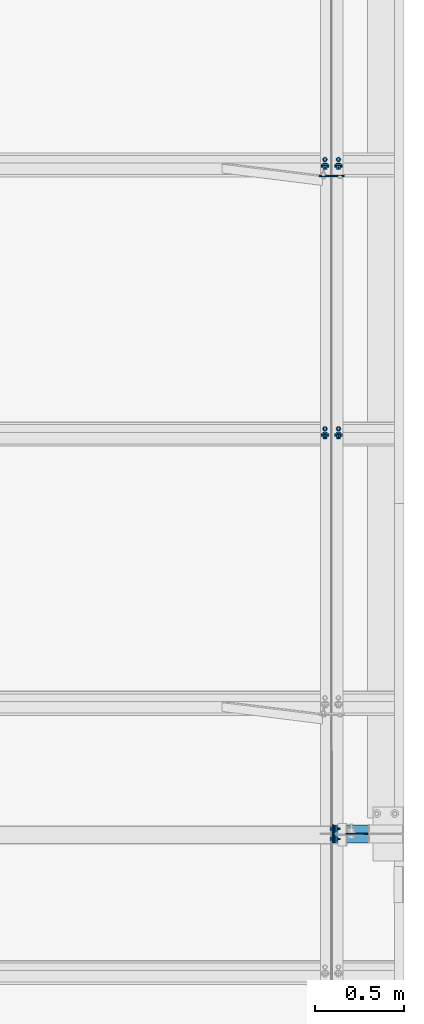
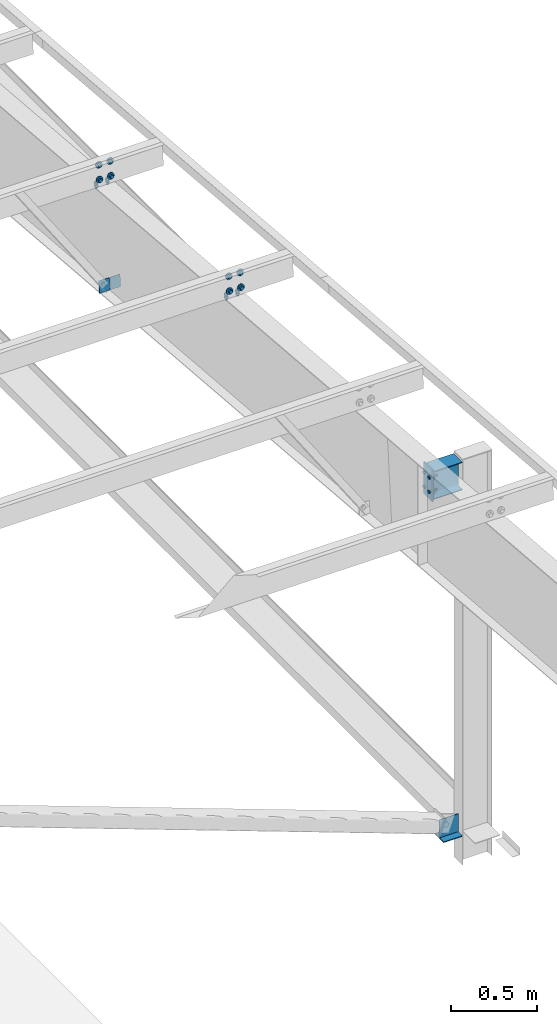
# One storey, part 112 of 185: 7 mechanical fasteners, 6 discrete accessories, 4 elements without a shape of their own.
"""IFC2X3 building model written with IfcOpenShell, lengths in millimetres."""

from ifc_helpers import new_model, si_unit, frame, origin_with_axes, origin_2d_with_axis, place, context, subcontext, project, spatial, polyline, rectangle, circle, i_section, outline, extrude, source, transform, mapped, material, type_object, element, aggregate, save


model = new_model("IFC2X3")

# Units and contexts
model_context = context("Model", 3, precision=1e-05, world=origin_with_axes())
body_context = subcontext(model_context, "Body", "Model", "MODEL_VIEW")
ifc_project = project(units=[si_unit("LENGTHUNIT", "METRE", prefix="MILLI"), si_unit("AREAUNIT", "SQUARE_METRE"), si_unit("VOLUMEUNIT", "CUBIC_METRE"), si_unit("MASSUNIT", "GRAM", prefix="KILO"), si_unit("TIMEUNIT", "SECOND"), si_unit("PLANEANGLEUNIT", "RADIAN"), si_unit("SOLIDANGLEUNIT", "STERADIAN"), si_unit("THERMODYNAMICTEMPERATUREUNIT", "DEGREE_CELSIUS"), si_unit("LUMINOUSINTENSITYUNIT", "LUMEN")], contexts=[model_context])

# Site, building, storey
site_placement = place(None, origin_with_axes())
site = spatial("IfcSite", under=ifc_project, at=site_placement, Name="Undefined", CompositionType="ELEMENT")
building_placement = place(site_placement, origin_with_axes())
building = spatial("IfcBuilding", under=site, at=building_placement, Name="Undefined", CompositionType="ELEMENT")
storey_placement = place(building_placement, origin_with_axes())
storey = spatial("IfcBuildingStorey", under=building, at=storey_placement, Name="Undefined", CompositionType="ELEMENT", Elevation=0.0)

# Assembly, discrete accessory
assembly_1_placement = place(storey_placement, origin_with_axes())
assembly_1 = element("IfcElementAssembly", 1, at=assembly_1_placement, inside=storey, Name="Steel Assembly", AssemblyPlace="NOTDEFINED", PredefinedType="RIGID_FRAME")
ifc_material_1 = material(Name="STEEL/55")
discrete_accessory_type_1 = type_object("IfcDiscreteAccessoryType", Name="Stiff")
discrete_accessory_1_placement = place(assembly_1_placement, frame((44694.475, 20167.6, 4167.98125), z_axis=(-1.0, 0.0, 0.0), x_axis=(0.0, -1.0, 0.0)))
discrete_accessory_1 = element("IfcDiscreteAccessory", 2, at=discrete_accessory_1_placement, type_object=discrete_accessory_type_1, material=ifc_material_1, Name="Stiff", ObjectType="FL1/4\"X4\"", context=body_context, shape_type="SweptSolid", body=[
    extrude(rectangle(XDim=6.35, YDim=127.0, at=origin_2d_with_axis()), frame((101.599998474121, 0.0, 0.0), z_axis=(-1.0, 0.0, 0.0), x_axis=(0.0, -1.0, 0.0)), (0.0, 0.0, 1.0), 101.6),
])

# Assembly, mechanical fasteners
assembly_2_placement = place(storey_placement, origin_with_axes())
assembly_2 = element("IfcElementAssembly", 3, at=assembly_2_placement, inside=storey, Name="Steel Assembly", AssemblyPlace="NOTDEFINED", PredefinedType="RIGID_FRAME")
ifc_material_2 = material(Name="Undefined")
discrete_accessory_type_2 = type_object("IfcDiscreteAccessoryType", Name="Bolt assembly")
shared_shape_1 = source(origin_with_axes(), body_context, "Body", "SweptSolid", [
    extrude(circle(Radius=7.14374971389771, at=origin_2d_with_axis()), frame((0.0, -1.59000001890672, 0.0), z_axis=(0.0, 1.0, 0.0), x_axis=(1.0, 0.0, 0.0)), (0.0, 0.0, 1.0), 3.3),
    extrude(circle(Radius=13.4937496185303, at=origin_2d_with_axis()), frame((0.0, -5.5587500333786, 0.0), z_axis=(0.0, 1.0, 0.0), x_axis=(1.0, 0.0, 0.0)), (0.0, 0.0, 1.0), 4.0),
    extrude(circle(Radius=22.2250003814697, at=origin_2d_with_axis()), frame((0.0, 1.5900000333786, 0.0), z_axis=(0.0, 1.0, 0.0), x_axis=(1.0, 0.0, 0.0)), (0.0, 0.0, 1.0), 7.9),
    extrude(outline(polyline([(12.8316099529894, 0.0), (6.4158049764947, 11.1125001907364), (-6.4158049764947, 11.1125001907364), (-12.8316099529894, 0.0), (-6.4158049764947, -11.1125001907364), (6.4158049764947, -11.1125001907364), (12.8316099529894, 0.0)])), frame((0.0, 9.5275000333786, 0.0), z_axis=(0.0, 1.0, 0.0), x_axis=(1.0, 0.0, 0.0)), (0.0, 0.0, 1.0), 12.3),
])
mechanical_fastener_1_placement = place(assembly_2_placement, frame((44513.5, 23895.206690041, 6720.75669348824), z_axis=(-1.0, 0.0, 0.0), x_axis=(0.0, -0.0830454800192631, -0.996545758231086)))
mechanical_fastener_1 = element("IfcMechanicalFastener", 4, at=mechanical_fastener_1_placement, type_object=discrete_accessory_type_2, material=ifc_material_2, Name="Bolt assembly", NominalDiameter=12.6999998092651, NominalLength=38.0999984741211, context=body_context, shape_type="MappedRepresentation", body=[
    mapped(shared_shape_1, transform((0.0, 0.0, 0.0))),
    mapped(shared_shape_1, transform((101.599998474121, 0.0, 0.0))),
])
mechanical_fastener_2_placement = place(assembly_2_placement, frame((44589.7, 23895.206690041, 6720.75669348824), z_axis=(-1.0, 0.0, 0.0), x_axis=(0.0, -0.0830454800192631, -0.996545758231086)))
mechanical_fastener_2 = element("IfcMechanicalFastener", 5, at=mechanical_fastener_2_placement, type_object=discrete_accessory_type_2, material=ifc_material_2, Name="Bolt assembly", NominalDiameter=12.6999998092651, NominalLength=38.0999984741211, context=body_context, shape_type="MappedRepresentation", body=[
    mapped(shared_shape_1, transform((0.0, 0.0, 0.0))),
    mapped(shared_shape_1, transform((101.599998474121, 0.0, 0.0))),
])

assembly_3_placement = place(storey_placement, origin_with_axes())
assembly_3 = element("IfcElementAssembly", 6, at=assembly_3_placement, inside=storey, Name="Steel Assembly", AssemblyPlace="NOTDEFINED", PredefinedType="RIGID_FRAME")
mechanical_fastener_3_placement = place(assembly_3_placement, frame((44513.5, 22376.470954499, 6847.3180050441), z_axis=(-1.0, 0.0, 0.0), x_axis=(0.0, -0.0830454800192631, -0.996545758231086)))
mechanical_fastener_3 = element("IfcMechanicalFastener", 7, at=mechanical_fastener_3_placement, type_object=discrete_accessory_type_2, material=ifc_material_2, Name="Bolt assembly", NominalDiameter=12.6999998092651, NominalLength=38.0999984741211, context=body_context, shape_type="MappedRepresentation", body=[
    mapped(shared_shape_1, transform((0.0, 0.0, 0.0))),
    mapped(shared_shape_1, transform((101.599998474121, 0.0, 0.0))),
])
mechanical_fastener_4_placement = place(assembly_3_placement, frame((44589.7, 22376.470954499, 6847.3180050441), z_axis=(-1.0, 0.0, 0.0), x_axis=(0.0, -0.0830454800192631, -0.996545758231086)))
mechanical_fastener_4 = element("IfcMechanicalFastener", 8, at=mechanical_fastener_4_placement, type_object=discrete_accessory_type_2, material=ifc_material_2, Name="Bolt assembly", NominalDiameter=12.6999998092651, NominalLength=38.0999984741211, context=body_context, shape_type="MappedRepresentation", body=[
    mapped(shared_shape_1, transform((0.0, 0.0, 0.0))),
    mapped(shared_shape_1, transform((101.599998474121, 0.0, 0.0))),
])

# Discrete accessory
discrete_accessory_type_3 = type_object("IfcDiscreteAccessoryType", Name="PLATE")
discrete_accessory_2_placement = place(assembly_1_placement, frame((44757.975, 20116.8, 4234.65625), z_axis=(0.0, 0.0, 1.0), x_axis=(-1.0, 0.0, 0.0)))
discrete_accessory_2 = element("IfcDiscreteAccessory", 9, at=discrete_accessory_2_placement, type_object=discrete_accessory_type_3, material=ifc_material_1, Name="PLATE", ObjectType="FL1/4\"X5\"", context=body_context, shape_type="SweptSolid", body=[
    extrude(rectangle(XDim=6.35, YDim=127.0, at=origin_2d_with_axis()), frame((127.000000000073, 3.63797855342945e-12, 7.27595761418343e-12), z_axis=(-1.0, 0.0, 0.0), x_axis=(0.0, -1.0, 0.0)), (0.0, 0.0, 1.0), 127.0),
])

discrete_accessory_3_placement = place(assembly_1_placement, frame((44558.148438, 20116.8, 6846.8875), z_axis=(0.0, 1.0, 0.0), x_axis=(0.0, 0.0, -1.0)))
discrete_accessory_3 = element("IfcDiscreteAccessory", 10, at=discrete_accessory_3_placement, type_object=discrete_accessory_type_3, material=ifc_material_1, Name="PLATE", ObjectType="FL3/8\"X4\"", context=body_context, shape_type="SweptSolid", body=[
    extrude(rectangle(XDim=9.525, YDim=101.6, at=origin_2d_with_axis()), frame((225.424999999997, 0.0, 0.0), z_axis=(-1.0, 0.0, 0.0), x_axis=(0.0, -1.0, 0.0)), (0.0, 0.0, 1.0), 225.4),
])

# Assembly, discrete accessories
assembly_4_placement = place(storey_placement, origin_with_axes())
assembly_4 = element("IfcElementAssembly", 11, at=assembly_4_placement, inside=storey, Name="Steel Assembly", AssemblyPlace="NOTDEFINED", PredefinedType="RIGID_FRAME")
discrete_accessory_type_4 = type_object("IfcDiscreteAccessoryType", Name="FLANGE BRACE FLIP")
discrete_accessory_4_placement = place(assembly_4_placement, frame((44549.89185, 23828.2229118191, 5896.38431117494), z_axis=(0.0, 0.0830454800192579, 0.996545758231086), x_axis=(-1.0, 0.0, 0.0)))
discrete_accessory_4 = element("IfcDiscreteAccessory", 12, at=discrete_accessory_4_placement, type_object=discrete_accessory_type_4, material=ifc_material_1, Name="FLANGE BRACE FLIP", ObjectType="PL1/8\"X2 3/4\"", context=body_context, shape_type="SweptSolid", body=[
    extrude(rectangle(XDim=3.416, YDim=85.725, at=origin_2d_with_axis()), frame((69.8499999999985, 0.0, 0.0), z_axis=(-1.0, 0.0, 0.0), x_axis=(0.0, -1.0, 0.0)), (0.0, 0.0, 1.0), 69.8),
])
discrete_accessory_5_placement = place(assembly_4_placement, frame((44553.30815, 23828.2229118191, 5896.38431117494), z_axis=(0.0, 0.0830454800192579, 0.996545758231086), x_axis=(1.0, 0.0, 0.0)))
discrete_accessory_5 = element("IfcDiscreteAccessory", 13, at=discrete_accessory_5_placement, type_object=discrete_accessory_type_4, material=ifc_material_1, Name="FLANGE BRACE FLIP", ObjectType="PL1/8\"X2 3/4\"", context=body_context, shape_type="SweptSolid", body=[
    extrude(rectangle(XDim=3.416, YDim=85.725, at=origin_2d_with_axis()), frame((69.8499999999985, 0.0, 0.0), z_axis=(-1.0, 0.0, 0.0), x_axis=(0.0, -1.0, 0.0)), (0.0, 0.0, 1.0), 69.9),
])
aggregate(assembly_4, [discrete_accessory_4, discrete_accessory_5])

# Mechanical fastener
shared_shape_2 = source(origin_with_axes(), body_context, "Body", "SweptSolid", [
    extrude(circle(Radius=7.14374971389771, at=origin_2d_with_axis()), frame((0.0, -0.1, 0.0), z_axis=(0.0, 1.0, 0.0), x_axis=(1.0, 0.0, 0.0)), (0.0, 0.0, 1.0), 6.5),
    extrude(circle(Radius=7.14374971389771, at=origin_2d_with_axis()), frame((0.0, -3.08000006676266, 0.0), z_axis=(0.0, 1.0, 0.0), x_axis=(1.0, 0.0, 0.0)), (0.0, 0.0, 1.0), 3.2),
    extrude(outline(polyline([(10.9985221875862, 0.0), (5.4992610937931, 9.52499961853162), (-5.4992610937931, 9.52499961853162), (-10.9985221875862, 0.0), (-5.4992610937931, -9.52499961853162), (5.4992610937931, -9.52499961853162), (10.9985221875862, 0.0)])), frame((0.0, -16.6737496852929, 0.0), z_axis=(0.0, 1.0, 0.0), x_axis=(1.0, 0.0, 0.0)), (0.0, 0.0, 1.0), 9.5),
    extrude(circle(Radius=6.34999990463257, at=origin_2d_with_axis()), frame((0.0, -7.14875006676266, 0.0), z_axis=(0.0, 1.0, 0.0), x_axis=(1.0, 0.0, 0.0)), (0.0, 0.0, 1.0), 38.1),
    extrude(circle(Radius=13.4937496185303, at=origin_2d_with_axis()), frame((0.0, -7.14875006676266, 0.0), z_axis=(0.0, 1.0, 0.0), x_axis=(1.0, 0.0, 0.0)), (0.0, 0.0, 1.0), 4.0),
    extrude(outline(polyline([(12.8316099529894, 0.0), (6.4158049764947, 11.1125001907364), (-6.4158049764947, 11.1125001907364), (-12.8316099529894, 0.0), (-6.4158049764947, -11.1125001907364), (6.4158049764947, -11.1125001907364), (12.8316099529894, 0.0)])), frame((0.0, 6.35000000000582, 0.0), z_axis=(0.0, 1.0, 0.0), x_axis=(1.0, 0.0, 0.0)), (0.0, 0.0, 1.0), 12.3),
])
mechanical_fastener_5_placement = place(assembly_2_placement, frame((44551.6, 23920.5189523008, 6565.71908714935), z_axis=(-1.0, 0.0, 0.0), x_axis=(0.0, 0.996545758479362, -0.0830454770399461)))
mechanical_fastener_5 = element("IfcMechanicalFastener", 14, at=mechanical_fastener_5_placement, type_object=discrete_accessory_type_2, material=ifc_material_2, Name="Bolt assembly", NominalDiameter=12.6999998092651, NominalLength=38.0999984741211, context=body_context, shape_type="MappedRepresentation", body=[
    mapped(shared_shape_2, transform((0.0, 0.0, -38.0999984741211))),
    mapped(shared_shape_2, transform((0.0, 0.0, 38.0999984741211))),
])

aggregate(assembly_2, [mechanical_fastener_5, mechanical_fastener_1, mechanical_fastener_2])

mechanical_fastener_6_placement = place(assembly_3_placement, frame((44551.6, 22401.7832167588, 6692.28039870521), z_axis=(-1.0, 0.0, 0.0), x_axis=(0.0, 0.996545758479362, -0.0830454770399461)))
mechanical_fastener_6 = element("IfcMechanicalFastener", 15, at=mechanical_fastener_6_placement, type_object=discrete_accessory_type_2, material=ifc_material_2, Name="Bolt assembly", NominalDiameter=12.6999998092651, NominalLength=38.0999984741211, context=body_context, shape_type="MappedRepresentation", body=[
    mapped(shared_shape_2, transform((0.0, 0.0, -38.0999984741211))),
    mapped(shared_shape_2, transform((0.0, 0.0, 38.0999984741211))),
])

aggregate(assembly_3, [mechanical_fastener_6, mechanical_fastener_3, mechanical_fastener_4])

shared_shape_3 = source(origin_with_axes(), body_context, "Body", "SweptSolid", [
    extrude(circle(Radius=7.14374971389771, at=origin_2d_with_axis()), frame((0.0, -4.06693800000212, 0.0), z_axis=(0.0, 1.0, 0.0), x_axis=(1.0, 0.0, 0.0)), (0.0, 0.0, 1.0), 4.8),
    extrude(circle(Radius=7.14374971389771, at=origin_2d_with_axis()), frame((0.0, -0.1, 0.0), z_axis=(0.0, 1.0, 0.0), x_axis=(1.0, 0.0, 0.0)), (0.0, 0.0, 1.0), 9.6),
    extrude(outline(polyline([(12.8316099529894, 0.0), (6.4158049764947, 11.1125001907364), (-6.4158049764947, 11.1125001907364), (-12.8316099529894, 0.0), (-6.4158049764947, -11.1125001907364), (6.4158049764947, -11.1125001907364), (12.8316099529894, 0.0)])), frame((0.0, -12.1044380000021, 0.0), z_axis=(0.0, 1.0, 0.0), x_axis=(1.0, 0.0, 0.0)), (0.0, 0.0, 1.0), 7.9),
    extrude(circle(Radius=6.34999990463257, at=origin_2d_with_axis()), frame((0.0, -4.16693800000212, 0.0), z_axis=(0.0, 1.0, 0.0), x_axis=(1.0, 0.0, 0.0)), (0.0, 0.0, 1.0), 50.8),
    extrude(circle(Radius=22.2250003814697, at=origin_2d_with_axis()), frame((0.0, 9.52499999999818, 0.0), z_axis=(0.0, 1.0, 0.0), x_axis=(1.0, 0.0, 0.0)), (0.0, 0.0, 1.0), 7.9),
    extrude(outline(polyline([(12.8316099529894, 0.0), (6.4158049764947, 11.1125001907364), (-6.4158049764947, 11.1125001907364), (-12.8316099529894, 0.0), (-6.4158049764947, -11.1125001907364), (6.4158049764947, -11.1125001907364), (12.8316099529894, 0.0)])), frame((0.0, 17.4624999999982, 0.0), z_axis=(0.0, 1.0, 0.0), x_axis=(1.0, 0.0, 0.0)), (0.0, 0.0, 1.0), 12.3),
])
mechanical_fastener_7_placement = place(assembly_1_placement, frame((44553.385938, 20116.8, 6784.975), z_axis=(0.0, -1.0, 0.0), x_axis=(0.0, 0.0, -1.0)))
mechanical_fastener_7 = element("IfcMechanicalFastener", 16, at=mechanical_fastener_7_placement, type_object=discrete_accessory_type_2, material=ifc_material_2, Name="Bolt assembly", NominalDiameter=12.6999998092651, NominalLength=50.7999992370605, context=body_context, shape_type="MappedRepresentation", body=[
    mapped(shared_shape_3, transform((0.0, 0.0, -28.5750007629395))),
    mapped(shared_shape_3, transform((101.599998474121, 0.0, -28.5750007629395))),
    mapped(shared_shape_3, transform((0.0, 0.0, 28.5750007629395))),
    mapped(shared_shape_3, transform((101.599998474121, 0.0, 28.5750007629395))),
])

# Discrete accessory
discrete_accessory_type_5 = type_object("IfcDiscreteAccessoryType", Name="BEAM")
discrete_accessory_6_placement = place(assembly_1_placement, frame((44757.975, 20116.8, 6734.175), z_axis=(0.0, 0.0, 1.0), x_axis=(-1.0, 0.0, 0.0)))
discrete_accessory_6 = element("IfcDiscreteAccessory", 17, at=discrete_accessory_6_placement, type_object=discrete_accessory_type_5, material=ifc_material_1, Name="BEAM", ObjectType="W8X10", context=body_context, shape_type="SweptSolid", body=[
    extrude(i_section(OverallWidth=101.6, OverallDepth=200.025, WebThickness=4.7625, FlangeThickness=4.7625, FilletRadius=12.7, at=origin_2d_with_axis()), frame((195.064062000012, 0.0, 0.0), z_axis=(-1.0, 0.0, 0.0), x_axis=(0.0, -1.0, 0.0)), (0.0, 0.0, 1.0), 195.1),
])

aggregate(assembly_1, [mechanical_fastener_7, discrete_accessory_2, discrete_accessory_1, discrete_accessory_3, discrete_accessory_6])

save(model, "model.ifc")
